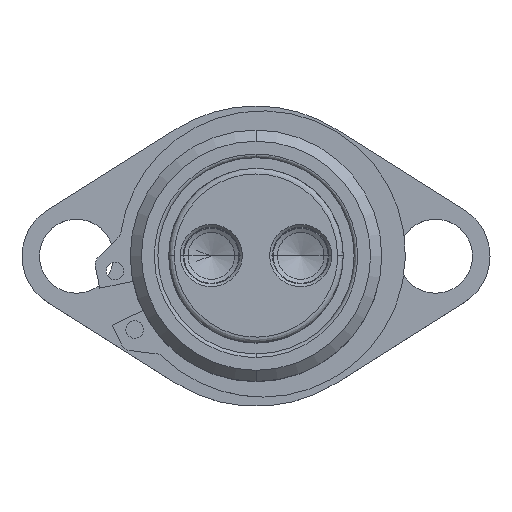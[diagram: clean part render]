
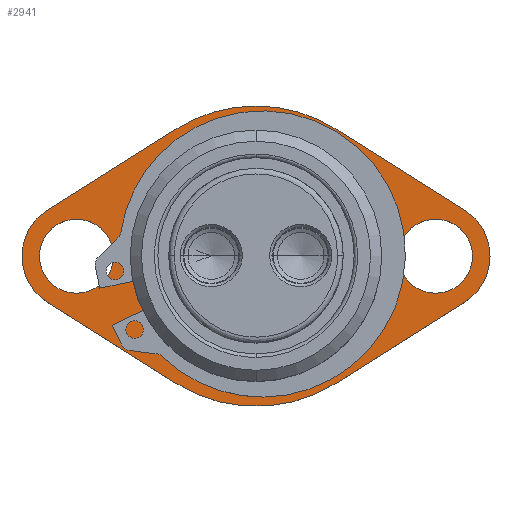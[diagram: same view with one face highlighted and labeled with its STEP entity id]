
A CAD part, top view. The second image highlights one B-rep face of the part: STEP entity #2941.
In plain terms, the highlighted planar face has unit normal (0, 0, 1) as drawn and (0, 1, 0) by its records, which use the part's own axes.
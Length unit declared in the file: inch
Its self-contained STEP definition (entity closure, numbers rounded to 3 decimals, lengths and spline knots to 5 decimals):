
#72 = EDGE_CURVE ( 'NONE', #1389, #2768, #4465, .T. ) ;
#79 = CARTESIAN_POINT ( 'NONE',  ( 0.57305, 0.25, 0.90952 ) ) ;
#113 = AXIS2_PLACEMENT_3D ( 'NONE', #1313, #3401, #2707 ) ;
#124 = CARTESIAN_POINT ( 'NONE',  ( -1.285, 0.25, -0.265 ) ) ;
#179 = DIRECTION ( 'NONE',  ( 0., 1., 0. ) ) ;
#201 = DIRECTION ( 'NONE',  ( 0., -1., 0. ) ) ;
#391 = CIRCLE ( 'NONE', #768, 0.9 ) ;
#422 = AXIS2_PLACEMENT_3D ( 'NONE', #2563, #4361, #973 ) ;
#430 = AXIS2_PLACEMENT_3D ( 'NONE', #1443, #3161, #2797 ) ;
#438 = VERTEX_POINT ( 'NONE', #3014 ) ;
#518 = CARTESIAN_POINT ( 'NONE',  ( -1.4929, 0.25, 0.32997 ) ) ;
#536 = EDGE_CURVE ( 'NONE', #1048, #4441, #2721, .T. ) ;
#538 = DIRECTION ( 'NONE',  ( 0., 0., 1. ) ) ;
#542 = VECTOR ( 'NONE', #2141, 39.37008 ) ;
#543 = VECTOR ( 'NONE', #799, 39.37008 ) ;
#582 = DIRECTION ( 'NONE',  ( 0., -1., 0. ) ) ;
#724 = CARTESIAN_POINT ( 'NONE',  ( 0., 0.25, -1.075 ) ) ;
#768 = AXIS2_PLACEMENT_3D ( 'NONE', #3637, #3608, #3258 ) ;
#793 = EDGE_LOOP ( 'NONE', ( #3591, #1871 ) ) ;
#799 = DIRECTION ( 'NONE',  ( 0.846, 0., -0.533 ) ) ;
#861 = CARTESIAN_POINT ( 'NONE',  ( 1.285, 0.25, 0. ) ) ;
#940 = VERTEX_POINT ( 'NONE', #1073 ) ;
#954 = VERTEX_POINT ( 'NONE', #724 ) ;
#968 = AXIS2_PLACEMENT_3D ( 'NONE', #3846, #3141, #1789 ) ;
#973 = DIRECTION ( 'NONE',  ( 0., 0., -1. ) ) ;
#1048 = VERTEX_POINT ( 'NONE', #3227 ) ;
#1073 = CARTESIAN_POINT ( 'NONE',  ( 0., 0.25, -0.9 ) ) ;
#1108 = CARTESIAN_POINT ( 'NONE',  ( -1.285, 0.25, 0.265 ) ) ;
#1164 = CARTESIAN_POINT ( 'NONE',  ( -1.4929, 0.25, -0.32997 ) ) ;
#1206 = DIRECTION ( 'NONE',  ( -0.846, 0., 0.533 ) ) ;
#1211 = VERTEX_POINT ( 'NONE', #4034 ) ;
#1220 = DIRECTION ( 'NONE',  ( 0., 0., -1. ) ) ;
#1222 = DIRECTION ( 'NONE',  ( 0., -1., 0. ) ) ;
#1244 = EDGE_CURVE ( 'NONE', #940, #2587, #3430, .T. ) ;
#1287 = VERTEX_POINT ( 'NONE', #3049 ) ;
#1313 = CARTESIAN_POINT ( 'NONE',  ( 0., 0.25, 0. ) ) ;
#1355 = ORIENTED_EDGE ( 'NONE', *, *, #2727, .F. ) ;
#1389 = VERTEX_POINT ( 'NONE', #1108 ) ;
#1443 = CARTESIAN_POINT ( 'NONE',  ( 0., 0.25, 0. ) ) ;
#1492 = CARTESIAN_POINT ( 'NONE',  ( 0.57305, 0.25, -0.90952 ) ) ;
#1500 = EDGE_CURVE ( 'NONE', #2587, #940, #391, .T. ) ;
#1537 = ORIENTED_EDGE ( 'NONE', *, *, #3492, .F. ) ;
#1602 = CARTESIAN_POINT ( 'NONE',  ( 1.285, 0.25, 0. ) ) ;
#1615 = EDGE_LOOP ( 'NONE', ( #1537, #1710, #4215, #2917, #1984, #2226, #3153, #3480, #1355 ) ) ;
#1633 = ORIENTED_EDGE ( 'NONE', *, *, #2932, .T. ) ;
#1637 = VECTOR ( 'NONE', #1206, 39.37008 ) ;
#1691 = AXIS2_PLACEMENT_3D ( 'NONE', #4367, #4039, #1933 ) ;
#1710 = ORIENTED_EDGE ( 'NONE', *, *, #2168, .T. ) ;
#1789 = DIRECTION ( 'NONE',  ( 0., 0., -1. ) ) ;
#1792 = EDGE_LOOP ( 'NONE', ( #4147, #4487 ) ) ;
#1837 = VERTEX_POINT ( 'NONE', #2384 ) ;
#1868 = CARTESIAN_POINT ( 'NONE',  ( -1.4929, 0.25, 0.32997 ) ) ;
#1871 = ORIENTED_EDGE ( 'NONE', *, *, #1500, .T. ) ;
#1875 = CARTESIAN_POINT ( 'NONE',  ( 1.285, 0.25, 0. ) ) ;
#1894 = CARTESIAN_POINT ( 'NONE',  ( 0., 0.25, 0.9 ) ) ;
#1933 = DIRECTION ( 'NONE',  ( 0., 0., -1. ) ) ;
#1975 = CARTESIAN_POINT ( 'NONE',  ( -1.285, 0.25, 0. ) ) ;
#1984 = ORIENTED_EDGE ( 'NONE', *, *, #536, .F. ) ;
#2023 = AXIS2_PLACEMENT_3D ( 'NONE', #1875, #3983, #3282 ) ;
#2024 = CARTESIAN_POINT ( 'NONE',  ( 0., 0.25, 0. ) ) ;
#2138 = AXIS2_PLACEMENT_3D ( 'NONE', #2279, #179, #538 ) ;
#2141 = DIRECTION ( 'NONE',  ( -0.846, 0., -0.533 ) ) ;
#2164 = VERTEX_POINT ( 'NONE', #1492 ) ;
#2168 = EDGE_CURVE ( 'NONE', #1837, #1211, #3491, .T. ) ;
#2194 = DIRECTION ( 'NONE',  ( 0.846, 0., 0.533 ) ) ;
#2204 = FACE_OUTER_BOUND ( 'NONE', #1615, .T. ) ;
#2226 = ORIENTED_EDGE ( 'NONE', *, *, #2862, .T. ) ;
#2232 = EDGE_CURVE ( 'NONE', #3084, #438, #4178, .T. ) ;
#2272 = EDGE_LOOP ( 'NONE', ( #1633, #2315 ) ) ;
#2279 = CARTESIAN_POINT ( 'NONE',  ( -1.285, 0.25, 0. ) ) ;
#2315 = ORIENTED_EDGE ( 'NONE', *, *, #72, .T. ) ;
#2321 = VERTEX_POINT ( 'NONE', #518 ) ;
#2384 = CARTESIAN_POINT ( 'NONE',  ( -0.57305, 0.25, -0.90952 ) ) ;
#2559 = EDGE_CURVE ( 'NONE', #1287, #4077, #2770, .T. ) ;
#2563 = CARTESIAN_POINT ( 'NONE',  ( -1.285, 0.25, 0. ) ) ;
#2567 = LINE ( 'NONE', #79, #543 ) ;
#2583 = DIRECTION ( 'NONE',  ( 0., 0., -1. ) ) ;
#2587 = VERTEX_POINT ( 'NONE', #1894 ) ;
#2680 = DIRECTION ( 'NONE',  ( 0., 0., -1. ) ) ;
#2707 = DIRECTION ( 'NONE',  ( 0., 0., -1. ) ) ;
#2721 = CIRCLE ( 'NONE', #1691, 1.075 ) ;
#2727 = EDGE_CURVE ( 'NONE', #954, #2164, #3003, .T. ) ;
#2768 = VERTEX_POINT ( 'NONE', #124 ) ;
#2770 = CIRCLE ( 'NONE', #2023, 0.265 ) ;
#2797 = DIRECTION ( 'NONE',  ( 0., 0., -1. ) ) ;
#2804 = AXIS2_PLACEMENT_3D ( 'NONE', #861, #201, #1220 ) ;
#2828 = CARTESIAN_POINT ( 'NONE',  ( 1.285, 0.25, -0.265 ) ) ;
#2862 = EDGE_CURVE ( 'NONE', #1048, #438, #2567, .T. ) ;
#2896 = CARTESIAN_POINT ( 'NONE',  ( 1.4929, 0.25, -0.32997 ) ) ;
#2917 = ORIENTED_EDGE ( 'NONE', *, *, #3005, .T. ) ;
#2932 = EDGE_CURVE ( 'NONE', #2768, #1389, #3590, .T. ) ;
#2941 = ADVANCED_FACE ( 'NONE', ( #3865, #2204, #4156, #4032 ), #4107, .T. ) ;
#3003 = CIRCLE ( 'NONE', #3426, 1.075 ) ;
#3005 = EDGE_CURVE ( 'NONE', #2321, #4441, #3701, .T. ) ;
#3014 = CARTESIAN_POINT ( 'NONE',  ( 1.4929, 0.25, 0.32997 ) ) ;
#3049 = CARTESIAN_POINT ( 'NONE',  ( 1.285, 0.25, 0.265 ) ) ;
#3084 = VERTEX_POINT ( 'NONE', #2896 ) ;
#3111 = LINE ( 'NONE', #3655, #542 ) ;
#3141 = DIRECTION ( 'NONE',  ( 0., -1., 0. ) ) ;
#3153 = ORIENTED_EDGE ( 'NONE', *, *, #2232, .F. ) ;
#3161 = DIRECTION ( 'NONE',  ( 0., -1., 0. ) ) ;
#3227 = CARTESIAN_POINT ( 'NONE',  ( 0.57305, 0.25, 0.90952 ) ) ;
#3258 = DIRECTION ( 'NONE',  ( 0., 0., -1. ) ) ;
#3282 = DIRECTION ( 'NONE',  ( 0., 0., -1. ) ) ;
#3374 = CIRCLE ( 'NONE', #2804, 0.265 ) ;
#3401 = DIRECTION ( 'NONE',  ( 0., -1., 0. ) ) ;
#3426 = AXIS2_PLACEMENT_3D ( 'NONE', #2024, #582, #2583 ) ;
#3430 = CIRCLE ( 'NONE', #113, 0.9 ) ;
#3480 = ORIENTED_EDGE ( 'NONE', *, *, #4136, .T. ) ;
#3491 = LINE ( 'NONE', #1164, #1637 ) ;
#3492 = EDGE_CURVE ( 'NONE', #1837, #954, #4209, .T. ) ;
#3590 = CIRCLE ( 'NONE', #422, 0.265 ) ;
#3591 = ORIENTED_EDGE ( 'NONE', *, *, #1244, .T. ) ;
#3608 = DIRECTION ( 'NONE',  ( 0., -1., 0. ) ) ;
#3637 = CARTESIAN_POINT ( 'NONE',  ( 0., 0.25, 0. ) ) ;
#3655 = CARTESIAN_POINT ( 'NONE',  ( 0.57305, 0.25, -0.90952 ) ) ;
#3692 = CARTESIAN_POINT ( 'NONE',  ( -0.57305, 0.25, 0.90952 ) ) ;
#3701 = LINE ( 'NONE', #1868, #4541 ) ;
#3705 = DIRECTION ( 'NONE',  ( 0., -1., 0. ) ) ;
#3769 = EDGE_CURVE ( 'NONE', #2321, #1211, #4155, .T. ) ;
#3846 = CARTESIAN_POINT ( 'NONE',  ( -1.285, 0.25, 0. ) ) ;
#3861 = EDGE_CURVE ( 'NONE', #4077, #1287, #3374, .T. ) ;
#3865 = FACE_BOUND ( 'NONE', #2272, .T. ) ;
#3983 = DIRECTION ( 'NONE',  ( 0., -1., 0. ) ) ;
#4032 = FACE_BOUND ( 'NONE', #793, .T. ) ;
#4034 = CARTESIAN_POINT ( 'NONE',  ( -1.4929, 0.25, -0.32997 ) ) ;
#4039 = DIRECTION ( 'NONE',  ( 0., -1., 0. ) ) ;
#4077 = VERTEX_POINT ( 'NONE', #2828 ) ;
#4107 = PLANE ( 'NONE',  #2138 ) ;
#4136 = EDGE_CURVE ( 'NONE', #3084, #2164, #3111, .T. ) ;
#4147 = ORIENTED_EDGE ( 'NONE', *, *, #3861, .T. ) ;
#4150 = AXIS2_PLACEMENT_3D ( 'NONE', #1602, #1222, #2680 ) ;
#4155 = CIRCLE ( 'NONE', #4546, 0.39 ) ;
#4156 = FACE_BOUND ( 'NONE', #1792, .T. ) ;
#4178 = CIRCLE ( 'NONE', #4150, 0.39 ) ;
#4209 = CIRCLE ( 'NONE', #430, 1.075 ) ;
#4215 = ORIENTED_EDGE ( 'NONE', *, *, #3769, .F. ) ;
#4361 = DIRECTION ( 'NONE',  ( 0., -1., 0. ) ) ;
#4367 = CARTESIAN_POINT ( 'NONE',  ( 0., 0.25, 0. ) ) ;
#4404 = DIRECTION ( 'NONE',  ( 0., 0., -1. ) ) ;
#4441 = VERTEX_POINT ( 'NONE', #3692 ) ;
#4465 = CIRCLE ( 'NONE', #968, 0.265 ) ;
#4487 = ORIENTED_EDGE ( 'NONE', *, *, #2559, .T. ) ;
#4541 = VECTOR ( 'NONE', #2194, 39.37008 ) ;
#4546 = AXIS2_PLACEMENT_3D ( 'NONE', #1975, #3705, #4404 ) ;
